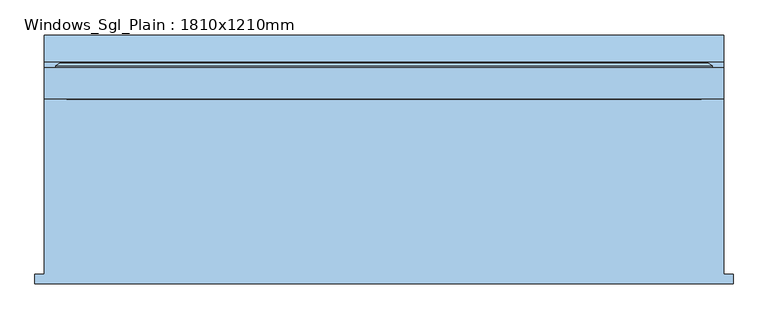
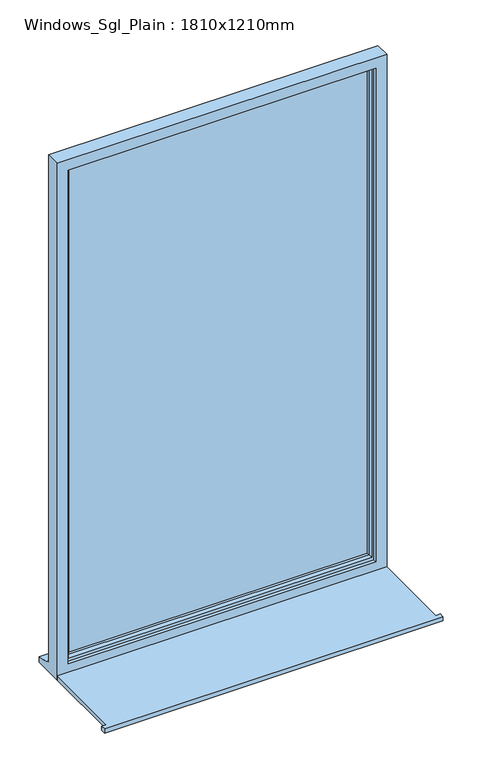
"""IFC4 building model written with IfcOpenShell, lengths in millimetres: window geometry, Windows_Sgl_Plain : 1810x1210mm."""

import ifcopenshell
import ifcopenshell.guid

model = None  # the IFC model being written
_history = None  # IfcOwnerHistory: only IFC2X3 demands one
_inside = {}  # id of a spatial element -> (the spatial element, [elements in it])
_under = {}  # id of a project, library or spatial element -> (it, [spatial elements below it])
_declared = {}  # id of a project -> (the project, [libraries it declares])
_typed = {}  # id of a type object -> (the type object, [elements of that type])
_made_of = {}  # id of a material, layer set ... -> (it, [elements and type objects made of it])


def new_model(schema):
    """Start an empty IFC model of exactly this schema.

    Asked for "IFC4X3", IfcOpenShell would pick the latest addendum, in which some entities
    have other attributes; the version numbers below select the first issue.
    IFC2X3 requires an IfcOwnerHistory on every rooted entity: one is made here for all.
    """
    global model, _history
    if schema == "IFC4X3":
        model = ifcopenshell.file(schema_version=(4, 3, 0, 0))
    else:
        model = ifcopenshell.file(schema=schema)
    _inside.clear()
    _under.clear()
    _declared.clear()
    _typed.clear()
    _made_of.clear()
    _history = None
    if model.schema == "IFC2X3":
        org = make("IfcOrganization", Name="unknown")
        user = make(
            "IfcPersonAndOrganization",
            ThePerson=make("IfcPerson", FamilyName="unknown"),
            TheOrganization=org,
        )
        app = make(
            "IfcApplication",
            ApplicationDeveloper=org,
            Version="unknown",
            ApplicationFullName="unknown",
            ApplicationIdentifier="unknown",
        )
        _history = make(
            "IfcOwnerHistory",
            OwningUser=user,
            OwningApplication=app,
            ChangeAction="ADDED",
            CreationDate=0,
        )
    return model


def make(cls, **values):
    """One entity of the class cls with the attributes given. An attribute that is None is left unset."""
    return model.create_entity(
        cls, **{name: value for name, value in values.items() if value is not None}
    )


def rooted(cls, **values):
    """An entity with a GlobalId (a new one), such as an element, a storey or a relation."""
    return make(cls, GlobalId=ifcopenshell.guid.new(), OwnerHistory=_history, **values)


def si_unit(unit_type, name, prefix=None):
    """IfcSIUnit, for example si_unit("LENGTHUNIT", "METRE", prefix="MILLI")."""
    return make("IfcSIUnit", UnitType=unit_type, Prefix=prefix, Name=name)


def assignment(units):
    """IfcUnitAssignment: the units of a project."""
    return None if units is None else make("IfcUnitAssignment", Units=units)


def point(xyz):
    """IfcCartesianPoint."""
    return None if xyz is None else make("IfcCartesianPoint", Coordinates=xyz)


def direction(xyz):
    """IfcDirection."""
    return None if xyz is None else make("IfcDirection", DirectionRatios=xyz)


def frame(location, z_axis=None, x_axis=None):
    """IfcAxis2Placement3D, a coordinate frame: its origin and axes. An axis left out is left unset."""
    return make(
        "IfcAxis2Placement3D",
        Location=point(location),
        Axis=direction(z_axis),
        RefDirection=direction(x_axis),
    )


def origin():
    """The frame at (0, 0, 0) with its axes left unset."""
    return frame((0.0, 0.0, 0.0))


def place(relative_to, where):
    """IfcLocalPlacement: puts the frame where relative to a parent placement (None: the world)."""
    return make(
        "IfcLocalPlacement", PlacementRelTo=relative_to, RelativePlacement=where
    )


def context(
    kind, dimensions, precision=None, world=None, true_north=None, identifier=None
):
    """IfcGeometricRepresentationContext, for example the 3D "Model" context."""
    return make(
        "IfcGeometricRepresentationContext",
        ContextIdentifier=identifier,
        ContextType=kind,
        CoordinateSpaceDimension=dimensions,
        Precision=precision,
        WorldCoordinateSystem=world,
        TrueNorth=true_north,
    )


def project(units=None, contexts=None):
    """IfcProject with its units and contexts."""
    return rooted(
        "IfcProject",
        Name="project",
        RepresentationContexts=contexts,
        UnitsInContext=assignment(units),
    )


def spatial(cls, under=None, at=None, **own):
    """A site, building, storey or space (cls), placed at a placement, below another one or the project."""
    s = rooted(cls, ObjectPlacement=at, **own)
    if under is not None:
        _under.setdefault(under.id(), (under, []))[1].append(s)
    return s


def polyline(points):
    """IfcPolyline through the points."""
    return make("IfcPolyline", Points=[point(p) for p in points])


def outline(outer, holes=None, kind="AREA"):
    """IfcArbitraryClosedProfileDef: a profile drawn as a closed curve; with holes, ...WithVoids."""
    if holes is None:
        return make("IfcArbitraryClosedProfileDef", ProfileType=kind, OuterCurve=outer)
    return make(
        "IfcArbitraryProfileDefWithVoids",
        ProfileType=kind,
        OuterCurve=outer,
        InnerCurves=holes,
    )


def extrude(swept, where, along, depth):
    """IfcExtrudedAreaSolid: the profile swept, set in the frame where, extruded along a direction by depth."""
    return make(
        "IfcExtrudedAreaSolid",
        SweptArea=swept,
        Position=where,
        ExtrudedDirection=direction(along),
        Depth=depth,
    )


def faces_of(points, faces, orient=None, outer=None):
    """IfcFace entities. A face is a list of loops; a loop is a list of indices into points, from 0.

    orient and outer hold one flag for each loop. By default every Orientation is true, the
    first loop of a face is its IfcFaceOuterBound and the others are IfcFaceBound.
    """
    made = []
    for i, loops in enumerate(faces):
        bounds = []
        for j, loop in enumerate(loops):
            is_outer = j == 0 if outer is None else outer[i][j]
            bounds.append(
                make(
                    "IfcFaceOuterBound" if is_outer else "IfcFaceBound",
                    Bound=make("IfcPolyLoop", Polygon=[points[k] for k in loop]),
                    Orientation=True if orient is None else orient[i][j],
                )
            )
        made.append(make("IfcFace", Bounds=bounds))
    return made


def faceted_brep(points, faces, orient=None, outer=None, voids=None):
    """IfcFacetedBrep: a solid bounded by flat faces; with voids (closed shells), ...WithVoids."""
    shared = [point(p) for p in points]
    hull = make("IfcClosedShell", CfsFaces=faces_of(shared, faces, orient, outer))
    if voids is None:
        return make("IfcFacetedBrep", Outer=hull)
    return make(
        "IfcFacetedBrepWithVoids",
        Outer=hull,
        Voids=[
            make(cls, CfsFaces=faces_of(shared, fs, o, b)) for cls, fs, o, b in voids
        ],
    )


def shape(context_of_items, identifier, shape_type, items):
    """IfcShapeRepresentation: the items that make up one representation, for example the "Body"."""
    return make(
        "IfcShapeRepresentation",
        ContextOfItems=context_of_items,
        RepresentationIdentifier=identifier,
        RepresentationType=shape_type,
        Items=items,
    )


def source(mapping_origin, context_of_items, identifier, shape_type, items):
    """IfcRepresentationMap: a shape defined once, which mapped items show again and again."""
    return make(
        "IfcRepresentationMap",
        MappingOrigin=mapping_origin,
        MappedRepresentation=shape(context_of_items, identifier, shape_type, items),
    )


def transform(
    local_origin,
    x_axis=None,
    y_axis=None,
    z_axis=None,
    scale=None,
    scale2=None,
    scale3=None,
    uniform=True,
):
    """IfcCartesianTransformationOperator3D, or its non-uniform kind. x_axis, y_axis, z_axis: its Axis1, 2, 3."""
    if uniform:
        return make(
            "IfcCartesianTransformationOperator3D",
            Axis1=direction(x_axis),
            Axis2=direction(y_axis),
            LocalOrigin=point(local_origin),
            Scale=scale,
            Axis3=direction(z_axis),
        )
    return make(
        "IfcCartesianTransformationOperator3DnonUniform",
        Axis1=direction(x_axis),
        Axis2=direction(y_axis),
        LocalOrigin=point(local_origin),
        Scale=scale,
        Axis3=direction(z_axis),
        Scale2=scale2,
        Scale3=scale3,
    )


def mapped(mapping_source, mapping_target):
    """IfcMappedItem: shows the shape of a source again, moved by a transform."""
    return make(
        "IfcMappedItem", MappingSource=mapping_source, MappingTarget=mapping_target
    )


def made_of(thing, what):
    """Note that an element or type object is made of a material, layer set ...; save() writes the relation."""
    if what is not None:
        _made_of.setdefault(what.id(), (what, []))[1].append(thing)
    return thing


def element(
    cls,
    number,
    at=None,
    inside=None,
    cuts=None,
    type_object=None,
    material=None,
    context=None,
    identifier="Body",
    shape_type=None,
    held_by="IfcProductDefinitionShape",
    body=None,
    shapes=None,
    **own,
):
    """One element of the class cls, such as IfcWall. Its Tag is "e" and its number.

    at: its placement. inside: the storey or other place that contains it. cuts: it is an
    opening in that element (IfcRelVoidsElement). A single representation is given by context,
    identifier, shape_type and body (its items); several are given by shapes. held_by: the class
    of the entity that holds the representations. save() writes the other relations.
    """
    e = rooted(cls, Tag="e%d" % number, ObjectPlacement=at, **own)
    if body is not None:
        shapes = [shape(context, identifier, shape_type, body)]
    if shapes is not None:
        e.Representation = make(held_by, Representations=shapes)
    if inside is not None:
        _inside.setdefault(inside.id(), (inside, []))[1].append(e)
    if cuts is not None:
        rooted(
            "IfcRelVoidsElement", RelatingBuildingElement=cuts, RelatedOpeningElement=e
        )
    if type_object is not None:
        _typed.setdefault(type_object.id(), (type_object, []))[1].append(e)
    return made_of(e, material)


def aggregate(whole, parts):
    """IfcRelAggregates: a whole, such as a stair, and the parts it consists of."""
    return rooted("IfcRelAggregates", RelatingObject=whole, RelatedObjects=parts)


def save(model, path):
    """Write the relations noted so far, then the file.

    IfcRelAggregates (storeys below a building ...), IfcRelContainedInSpatialStructure (elements
    in a storey), IfcRelDefinesByType, IfcRelAssociatesMaterial and IfcRelDeclares: one each for
    every whole, place, type object, material and project.
    """
    for whole, parts in _under.values():
        aggregate(whole, parts)
    for where, things in _inside.values():
        rooted(
            "IfcRelContainedInSpatialStructure",
            RelatedElements=things,
            RelatingStructure=where,
        )
    for kind, things in _typed.values():
        rooted("IfcRelDefinesByType", RelatedObjects=things, RelatingType=kind)
    for what, things in _made_of.values():
        rooted("IfcRelAssociatesMaterial", RelatedObjects=things, RelatingMaterial=what)
    for by, libraries in _declared.values():
        rooted("IfcRelDeclares", RelatingContext=by, RelatedDefinitions=libraries)
    model.write(path)


def windows_sgl_plain_1810x1210mm_9f3af405(model_context):
    return source(origin(), model_context, "Body", "SolidModel", [
        extrude(outline(polyline([(-930.0, -316.5434322), (-930.0, -291.5434322), (-905.0, -291.5434322), (-905.0, 175.4565678), (905.0, 175.4565678), (905.0, -291.5434322), (930.0, -291.5434322), (930.0, -316.5434322), (-930.0, -316.5434322)])), frame((0.0, 0.0, -890.0), z_axis=(0.0, 0.0, 1.0), x_axis=(1.0, 0.0, 0.0)), (0.0, 0.0, 1.0), 25.0),
        faceted_brep([(-905.0, 175.4565678, -890.0), (905.0, 175.4565678, -890.0), (905.0, 175.4565678, 2110.0), (-905.0, 175.4565678, 2110.0), (-845.0, 175.4565678, 2050.0), (845.0, 175.4565678, 2050.0), (845.0, 175.4565678, -815.0), (-845.0, 175.4565678, -815.0), (-905.0, 258.4565678, 2110.0), (-905.0, 258.4565678, -839.0), (-905.0, 273.4565678, -840.31233), (-905.0, 273.4565678, -845.2550324), (-905.0, 345.9565678, -856.1911153), (-905.0, 345.9565678, -890.0), (905.0, 258.4565678, 2110.0), (905.0, 258.4565678, -839.0), (-865.0, 258.4565678, 2070.0), (-865.0, 258.4565678, -827.0), (865.0, 258.4565678, -827.0), (865.0, 258.4565678, 2070.0), (-865.0, 193.4565678, 2070.0), (-865.0, 193.4565678, -827.0), (865.0, 193.4565678, 2070.0), (865.0, 193.4565678, -827.0), (-845.0, 193.4565678, 2050.0), (-845.0, 193.4565678, -815.0), (845.0, 193.4565678, -815.0), (845.0, 193.4565678, 2050.0), (905.0, 345.9565678, -890.0), (905.0, 345.9565678, -856.1911153), (905.0, 273.4565678, -845.2550324), (905.0, 273.4565678, -840.31233)], [[[0, 1, 2, 3], [4, 5, 6, 7]], [[0, 3, 8, 9, 10, 11, 12, 13]], [[9, 8, 14, 15], [16, 17, 18, 19]], [[17, 16, 20, 21]], [[20, 22, 23, 21], [24, 25, 26, 27]], [[24, 4, 7, 25]], [[3, 2, 14, 8]], [[16, 19, 22, 20]], [[5, 4, 24, 27]], [[15, 14, 2, 1, 28, 29, 30, 31]], [[19, 18, 23, 22]], [[5, 27, 26, 6]], [[28, 1, 0, 13]], [[29, 28, 13, 12]], [[30, 29, 12, 11]], [[31, 30, 11, 10]], [[15, 31, 10, 9]], [[21, 23, 18, 17]], [[7, 6, 26, 25]]]),
        extrude(outline(polyline([(835.0, 222.4565678), (-835.0, 222.4565678), (-835.0, 246.4565678), (835.0, 246.4565678), (835.0, 222.4565678)])), frame((0.0, 0.0, -797.0), z_axis=(0.0, 0.0, 1.0), x_axis=(1.0, 0.0, 0.0)), (0.0, 0.0, 1.0), 2837.0),
        faceted_brep([(-875.0, 258.4565678, 2080.0), (-875.0, 264.2300705, 2080.0), (-875.0, 264.2300705, -837.0), (-875.0, 258.4565678, -837.0), (-865.0, 193.4565678, 2070.0), (-865.0, 258.4565678, 2070.0), (-865.0, 258.4565678, -827.0), (-865.0, 193.4565678, -827.0), (-825.0, 207.9494677, 2030.0), (-835.1480377, 193.4565678, 2040.1480377), (-835.1480377, 193.4565678, -797.1480377), (-825.0, 207.9494677, -787.0), (-825.0, 222.4565678, 2030.0), (-825.0, 222.4565678, -787.0), (-835.0, 246.4565678, 2040.0), (-835.0, 222.4565678, 2040.0), (-835.0, 222.4565678, -797.0), (-835.0, 246.4565678, -797.0), (-825.0, 264.2300705, 2030.0), (-825.0, 246.4565678, 2030.0), (-825.0, 246.4565678, -787.0), (-825.0, 264.2300705, -787.0), (-842.4457548, 270.0035732, 2047.4457548), (-842.4457548, 270.0035732, -804.4457548), (-864.2153903, 270.0035732, 2069.2153903), (-864.2153903, 270.0035732, -826.2153903), (875.0, 264.2300705, -837.0), (875.0, 258.4565678, -837.0), (865.0, 258.4565678, -827.0), (865.0, 193.4565678, -827.0), (835.1480377, 193.4565678, -797.1480377), (825.0, 207.9494677, -787.0), (825.0, 222.4565678, -787.0), (835.0, 222.4565678, -797.0), (835.0, 246.4565678, -797.0), (825.0, 246.4565678, -787.0), (825.0, 264.2300705, -787.0), (842.4457548, 270.0035732, -804.4457548), (864.2153903, 270.0035732, -826.2153903), (875.0, 264.2300705, 2080.0), (875.0, 258.4565678, 2080.0), (865.0, 258.4565678, 2070.0), (865.0, 193.4565678, 2070.0), (835.1480377, 193.4565678, 2040.1480377), (825.0, 207.9494677, 2030.0), (825.0, 222.4565678, 2030.0), (835.0, 222.4565678, 2040.0), (835.0, 246.4565678, 2040.0), (825.0, 246.4565678, 2030.0), (825.0, 264.2300705, 2030.0), (842.4457548, 270.0035732, 2047.4457548), (864.2153903, 270.0035732, 2069.2153903)], [[[0, 1, 2, 3]], [[4, 5, 6, 7]], [[8, 9, 10, 11]], [[12, 8, 11, 13]], [[14, 15, 16, 17]], [[18, 19, 20, 21]], [[22, 18, 21, 23]], [[1, 24, 25, 2]], [[3, 2, 26, 27]], [[7, 6, 28, 29]], [[11, 10, 30, 31]], [[13, 11, 31, 32]], [[17, 16, 33, 34]], [[21, 20, 35, 36]], [[23, 21, 36, 37]], [[2, 25, 38, 26]], [[27, 26, 39, 40]], [[29, 28, 41, 42]], [[31, 30, 43, 44]], [[32, 31, 44, 45]], [[34, 33, 46, 47]], [[36, 35, 48, 49]], [[37, 36, 49, 50]], [[26, 38, 51, 39]], [[40, 39, 1, 0]], [[3, 27, 40, 0], [5, 41, 28, 6]], [[42, 41, 5, 4]], [[7, 29, 42, 4], [9, 43, 30, 10]], [[44, 43, 9, 8]], [[45, 44, 8, 12]], [[15, 46, 33, 16], [13, 32, 45, 12]], [[47, 46, 15, 14]], [[17, 34, 47, 14], [19, 48, 35, 20]], [[49, 48, 19, 18]], [[50, 49, 18, 22]], [[24, 51, 38, 25], [23, 37, 50, 22]], [[39, 51, 24, 1]]]),
    ])


if __name__ == "__main__":
    model = new_model("IFC4")
    model_context = context("Model", 3, world=origin())
    ifc_project = project(units=[si_unit("LENGTHUNIT", "METRE", prefix="MILLI")], contexts=[model_context])
    site = spatial("IfcSite", under=ifc_project)
    building = spatial("IfcBuilding", under=site)
    placement = place(None, origin())
    windows_sgl_plain_1810x1210mm_shape = windows_sgl_plain_1810x1210mm_9f3af405(model_context)
    element("IfcWindow", 1, ObjectType="Windows_Sgl_Plain : 1810x1210mm", at=placement, inside=building, context=model_context, shape_type="MappedRepresentation", body=[
        mapped(windows_sgl_plain_1810x1210mm_shape, transform((0.0, 0.0, 0.0), x_axis=(1.0, 0.0, 0.0), y_axis=(0.0, 1.0, 0.0), z_axis=(0.0, 0.0, 1.0))),
    ])
    save(model, "model.ifc")
